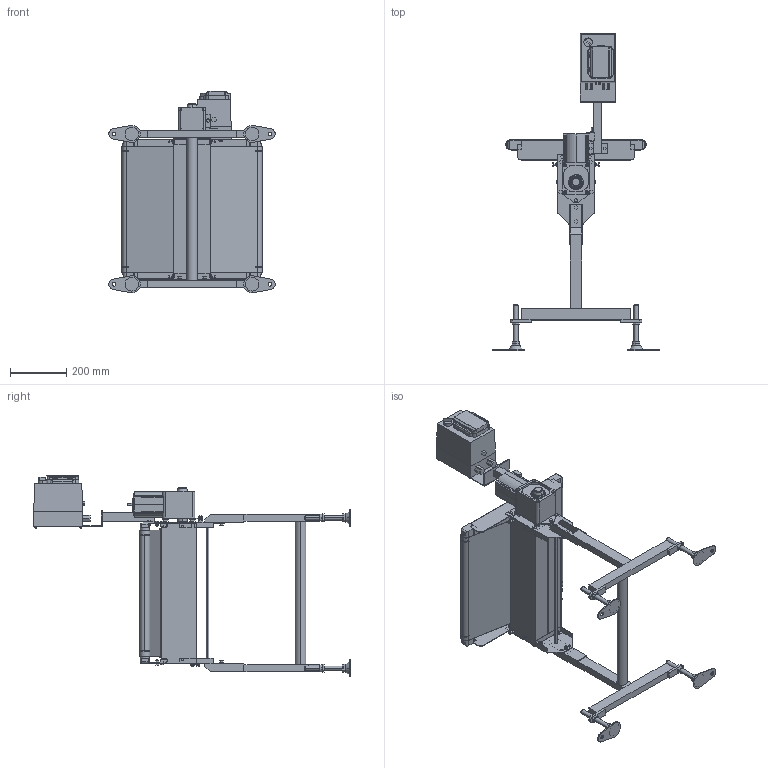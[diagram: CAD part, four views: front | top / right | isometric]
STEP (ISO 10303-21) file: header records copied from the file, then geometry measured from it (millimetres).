
FILE_DESCRIPTION (( 'STEP AP214' ), '1' );
FILE_NAME ('FSDHS-450-500-L.STEP', '2023-04-20T09:13:36', ( '' ), ( '' ), 'SwSTEP 2.0', 'SolidWorks 2017', '' );
FILE_SCHEMA (( 'AUTOMOTIVE_DESIGN' ));
Length unit declared in the file: millimetre
Products named in the file (1): FSDHS-450-500-L
Bounding box: 594 x 1131 x 719.99 mm (x, y, z)
Volume: 19422090.4 mm3; surface area: 3594241.2 mm2
Topology: 46 solids, 48 shells, 1758 faces, 4365 edges, 2866 vertices
Faces by surface type: plane 1175, cylinder 540, cone 29, bspline 14
Entity records: 73980 total; most frequent: CARTESIAN_POINT 11192, DIRECTION 8967, ORIENTED_EDGE 8726, EDGE_CURVE 4363, LINE 3103, VECTOR 3103, AXIS2_PLACEMENT_3D 2932, VERTEX_POINT 2866
